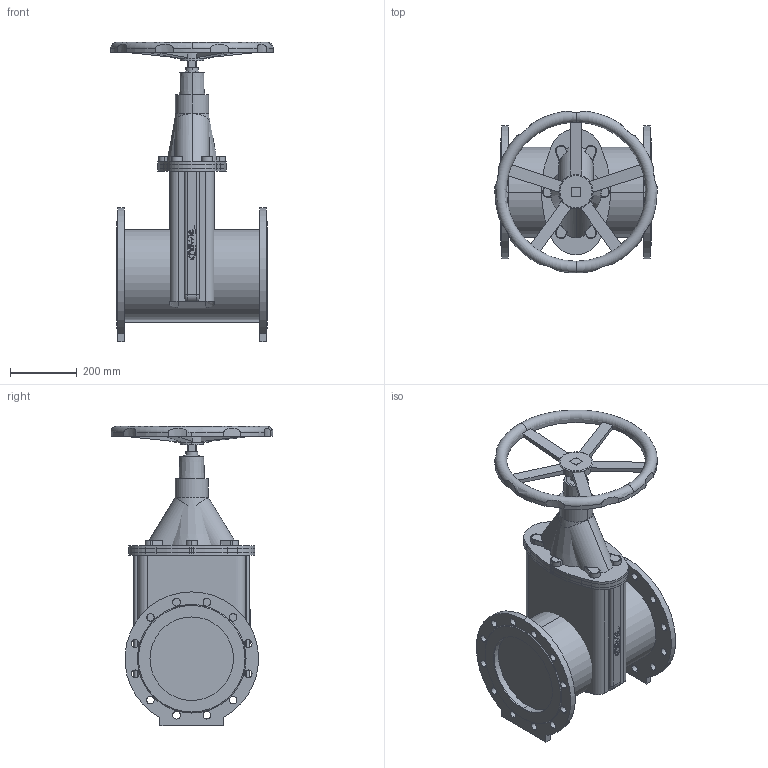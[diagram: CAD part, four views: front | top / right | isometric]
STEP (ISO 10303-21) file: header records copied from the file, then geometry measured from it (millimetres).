
FILE_DESCRIPTION(('STEP AP214'),'1');
FILE_NAME('S:/EK/USER/CAT6/3DHomepage/4700E2/4700E2-PN10-DN250-HANDRAD.STP','2012-04-23T12:33:47',(' '),(' '),'Spatial InterOp 3D',' ',' ');
FILE_SCHEMA(('automotive_design'));
Length unit declared in the file: millimetre
Products named in the file (57): 3D-Objekt
Bounding box: 486 x 484.36 x 895 mm (x, y, z)
Volume: 51856908.2 mm3; surface area: 2587658.5 mm2
Topology: 57 solids, 57 shells, 570 faces, 1361 edges, 907 vertices
Faces by surface type: plane 284, cylinder 262, cone 10, torus 10, bspline 4
Entity records: 23011 total; most frequent: CARTESIAN_POINT 3233, DIRECTION 3168, ORIENTED_EDGE 2722, EDGE_CURVE 1361, AXIS2_PLACEMENT_3D 1194, VERTEX_POINT 907, LINE 780, VECTOR 780
